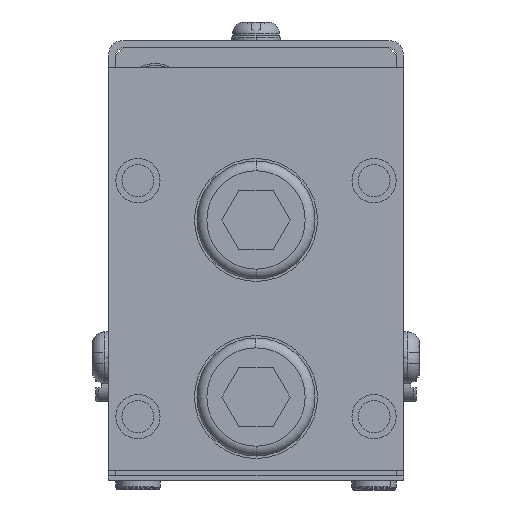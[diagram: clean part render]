
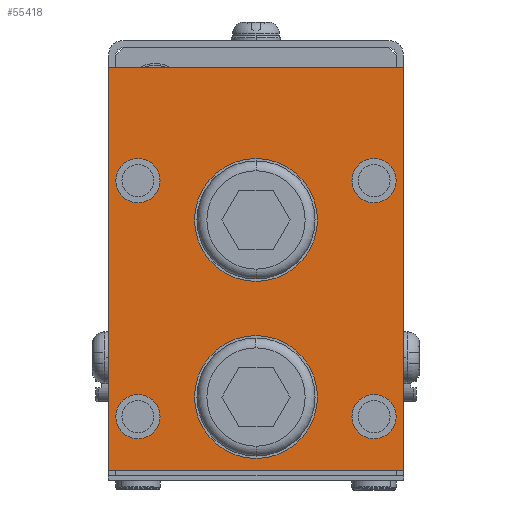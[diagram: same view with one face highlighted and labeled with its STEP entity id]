
A CAD part, front view. The second image highlights one B-rep face of the part: STEP entity #55418.
In plain terms, the highlighted planar face has unit normal (0, -1, 0).
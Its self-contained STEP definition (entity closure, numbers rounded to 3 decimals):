
#49316=CARTESIAN_POINT('',(-36.147,-83.,18.041));
#49317=VERTEX_POINT('',#49316);
#49333=CARTESIAN_POINT('',(-36.147,-83.,43.041));
#49334=VERTEX_POINT('',#49333);
#49341=CARTESIAN_POINT('',(-36.147,-83.,30.541));
#49342=DIRECTION('',(0.0,1.0,0.0));
#49343=DIRECTION('',(0.0,0.0,-1.0));
#49344=AXIS2_PLACEMENT_3D('',#49341,#49342,#49343);
#49345=CIRCLE('',#49344,12.5);
#49346=EDGE_CURVE('',#49317,#49334,#49345,.T.);
#49379=CARTESIAN_POINT('',(-36.147,-83.,-17.959));
#49380=VERTEX_POINT('',#49379);
#49396=CARTESIAN_POINT('',(-36.147,-83.,7.041));
#49397=VERTEX_POINT('',#49396);
#49404=CARTESIAN_POINT('',(-36.147,-83.,-5.459));
#49405=DIRECTION('',(0.0,1.0,0.0));
#49406=DIRECTION('',(0.0,0.0,-1.0));
#49407=AXIS2_PLACEMENT_3D('',#49404,#49405,#49406);
#49408=CIRCLE('',#49407,12.5);
#49409=EDGE_CURVE('',#49380,#49397,#49408,.T.);
#49442=CARTESIAN_POINT('',(-60.147,-83.,-13.959));
#49443=VERTEX_POINT('',#49442);
#49459=CARTESIAN_POINT('',(-60.147,-83.,-4.959));
#49460=VERTEX_POINT('',#49459);
#49467=CARTESIAN_POINT('',(-60.147,-83.,-9.459));
#49468=DIRECTION('',(0.0,1.0,0.0));
#49469=DIRECTION('',(0.0,0.0,-1.0));
#49470=AXIS2_PLACEMENT_3D('',#49467,#49468,#49469);
#49471=CIRCLE('',#49470,4.5);
#49472=EDGE_CURVE('',#49443,#49460,#49471,.T.);
#49505=CARTESIAN_POINT('',(-12.147,-83.,34.041));
#49506=VERTEX_POINT('',#49505);
#49522=CARTESIAN_POINT('',(-12.147,-83.,43.041));
#49523=VERTEX_POINT('',#49522);
#49530=CARTESIAN_POINT('',(-12.147,-83.,38.541));
#49531=DIRECTION('',(0.0,1.0,0.0));
#49532=DIRECTION('',(0.0,0.0,-1.0));
#49533=AXIS2_PLACEMENT_3D('',#49530,#49531,#49532);
#49534=CIRCLE('',#49533,4.5);
#49535=EDGE_CURVE('',#49506,#49523,#49534,.T.);
#49568=CARTESIAN_POINT('',(-12.147,-83.,-13.959));
#49569=VERTEX_POINT('',#49568);
#49585=CARTESIAN_POINT('',(-12.147,-83.,-4.959));
#49586=VERTEX_POINT('',#49585);
#49593=CARTESIAN_POINT('',(-12.147,-83.,-9.459));
#49594=DIRECTION('',(0.0,1.0,0.0));
#49595=DIRECTION('',(0.0,0.0,-1.0));
#49596=AXIS2_PLACEMENT_3D('',#49593,#49594,#49595);
#49597=CIRCLE('',#49596,4.5);
#49598=EDGE_CURVE('',#49569,#49586,#49597,.T.);
#49631=CARTESIAN_POINT('',(-60.147,-83.,34.041));
#49632=VERTEX_POINT('',#49631);
#49648=CARTESIAN_POINT('',(-60.147,-83.,43.041));
#49649=VERTEX_POINT('',#49648);
#49656=CARTESIAN_POINT('',(-60.147,-83.,38.541));
#49657=DIRECTION('',(0.0,1.0,0.0));
#49658=DIRECTION('',(0.0,0.0,-1.0));
#49659=AXIS2_PLACEMENT_3D('',#49656,#49657,#49658);
#49660=CIRCLE('',#49659,4.5);
#49661=EDGE_CURVE('',#49632,#49649,#49660,.T.);
#55319=CARTESIAN_POINT('',(-36.147,-83.,20.541));
#55320=DIRECTION('',(0.0,1.0,0.0));
#55321=DIRECTION('',(1.0,0.0,0.0));
#55322=AXIS2_PLACEMENT_3D('',#55319,#55320,#55321);
#55323=PLANE('',#55322);
#55324=CARTESIAN_POINT('',(-66.147,-83.,61.541));
#55325=VERTEX_POINT('',#55324);
#55326=CARTESIAN_POINT('',(-6.147,-83.,61.541));
#55327=VERTEX_POINT('',#55326);
#55328=CARTESIAN_POINT('',(-66.147,-83.,61.541));
#55329=DIRECTION('',(1.0,0.0,0.0));
#55330=VECTOR('',#55329,60.0);
#55331=LINE('',#55328,#55330);
#55332=EDGE_CURVE('',#55325,#55327,#55331,.T.);
#55333=ORIENTED_EDGE('',*,*,#55332,.F.);
#55334=CARTESIAN_POINT('',(-66.147,-83.,-20.459));
#55335=VERTEX_POINT('',#55334);
#55336=CARTESIAN_POINT('',(-66.147,-83.,-20.459));
#55337=DIRECTION('',(0.0,0.0,1.0));
#55338=VECTOR('',#55337,82.);
#55339=LINE('',#55336,#55338);
#55340=EDGE_CURVE('',#55335,#55325,#55339,.T.);
#55341=ORIENTED_EDGE('',*,*,#55340,.F.);
#55342=CARTESIAN_POINT('',(-6.147,-83.,-20.459));
#55343=VERTEX_POINT('',#55342);
#55344=CARTESIAN_POINT('',(-6.147,-83.,-20.459));
#55345=DIRECTION('',(-1.0,0.0,0.0));
#55346=VECTOR('',#55345,60.0);
#55347=LINE('',#55344,#55346);
#55348=EDGE_CURVE('',#55343,#55335,#55347,.T.);
#55349=ORIENTED_EDGE('',*,*,#55348,.F.);
#55350=CARTESIAN_POINT('',(-6.147,-83.,61.541));
#55351=DIRECTION('',(0.0,0.0,-1.0));
#55352=VECTOR('',#55351,82.);
#55353=LINE('',#55350,#55352);
#55354=EDGE_CURVE('',#55327,#55343,#55353,.T.);
#55355=ORIENTED_EDGE('',*,*,#55354,.F.);
#55356=EDGE_LOOP('',(#55333,#55341,#55349,#55355));
#55357=FACE_OUTER_BOUND('',#55356,.T.);
#55358=ORIENTED_EDGE('',*,*,#49346,.T.);
#55359=CARTESIAN_POINT('',(-36.147,-83.,30.541));
#55360=DIRECTION('',(0.0,1.0,0.0));
#55361=DIRECTION('',(0.0,0.0,-1.0));
#55362=AXIS2_PLACEMENT_3D('',#55359,#55360,#55361);
#55363=CIRCLE('',#55362,12.5);
#55364=EDGE_CURVE('',#49334,#49317,#55363,.T.);
#55365=ORIENTED_EDGE('',*,*,#55364,.T.);
#55366=EDGE_LOOP('',(#55358,#55365));
#55367=FACE_BOUND('',#55366,.T.);
#55368=ORIENTED_EDGE('',*,*,#49409,.T.);
#55369=CARTESIAN_POINT('',(-36.147,-83.,-5.459));
#55370=DIRECTION('',(0.0,1.0,0.0));
#55371=DIRECTION('',(0.0,0.0,-1.0));
#55372=AXIS2_PLACEMENT_3D('',#55369,#55370,#55371);
#55373=CIRCLE('',#55372,12.5);
#55374=EDGE_CURVE('',#49397,#49380,#55373,.T.);
#55375=ORIENTED_EDGE('',*,*,#55374,.T.);
#55376=EDGE_LOOP('',(#55368,#55375));
#55377=FACE_BOUND('',#55376,.T.);
#55378=ORIENTED_EDGE('',*,*,#49472,.T.);
#55379=CARTESIAN_POINT('',(-60.147,-83.,-9.459));
#55380=DIRECTION('',(0.0,1.0,0.0));
#55381=DIRECTION('',(0.0,0.0,-1.0));
#55382=AXIS2_PLACEMENT_3D('',#55379,#55380,#55381);
#55383=CIRCLE('',#55382,4.5);
#55384=EDGE_CURVE('',#49460,#49443,#55383,.T.);
#55385=ORIENTED_EDGE('',*,*,#55384,.T.);
#55386=EDGE_LOOP('',(#55378,#55385));
#55387=FACE_BOUND('',#55386,.T.);
#55388=ORIENTED_EDGE('',*,*,#49535,.T.);
#55389=CARTESIAN_POINT('',(-12.147,-83.,38.541));
#55390=DIRECTION('',(0.0,1.0,0.0));
#55391=DIRECTION('',(0.0,0.0,-1.0));
#55392=AXIS2_PLACEMENT_3D('',#55389,#55390,#55391);
#55393=CIRCLE('',#55392,4.5);
#55394=EDGE_CURVE('',#49523,#49506,#55393,.T.);
#55395=ORIENTED_EDGE('',*,*,#55394,.T.);
#55396=EDGE_LOOP('',(#55388,#55395));
#55397=FACE_BOUND('',#55396,.T.);
#55398=ORIENTED_EDGE('',*,*,#49598,.T.);
#55399=CARTESIAN_POINT('',(-12.147,-83.,-9.459));
#55400=DIRECTION('',(0.0,1.0,0.0));
#55401=DIRECTION('',(0.0,0.0,-1.0));
#55402=AXIS2_PLACEMENT_3D('',#55399,#55400,#55401);
#55403=CIRCLE('',#55402,4.5);
#55404=EDGE_CURVE('',#49586,#49569,#55403,.T.);
#55405=ORIENTED_EDGE('',*,*,#55404,.T.);
#55406=EDGE_LOOP('',(#55398,#55405));
#55407=FACE_BOUND('',#55406,.T.);
#55408=ORIENTED_EDGE('',*,*,#49661,.T.);
#55409=CARTESIAN_POINT('',(-60.147,-83.,38.541));
#55410=DIRECTION('',(0.0,1.0,0.0));
#55411=DIRECTION('',(0.0,0.0,-1.0));
#55412=AXIS2_PLACEMENT_3D('',#55409,#55410,#55411);
#55413=CIRCLE('',#55412,4.5);
#55414=EDGE_CURVE('',#49649,#49632,#55413,.T.);
#55415=ORIENTED_EDGE('',*,*,#55414,.T.);
#55416=EDGE_LOOP('',(#55408,#55415));
#55417=FACE_BOUND('',#55416,.T.);
#55418=ADVANCED_FACE('',(#55357,#55367,#55377,#55387,#55397,#55407,#55417),#55323,.F.);
